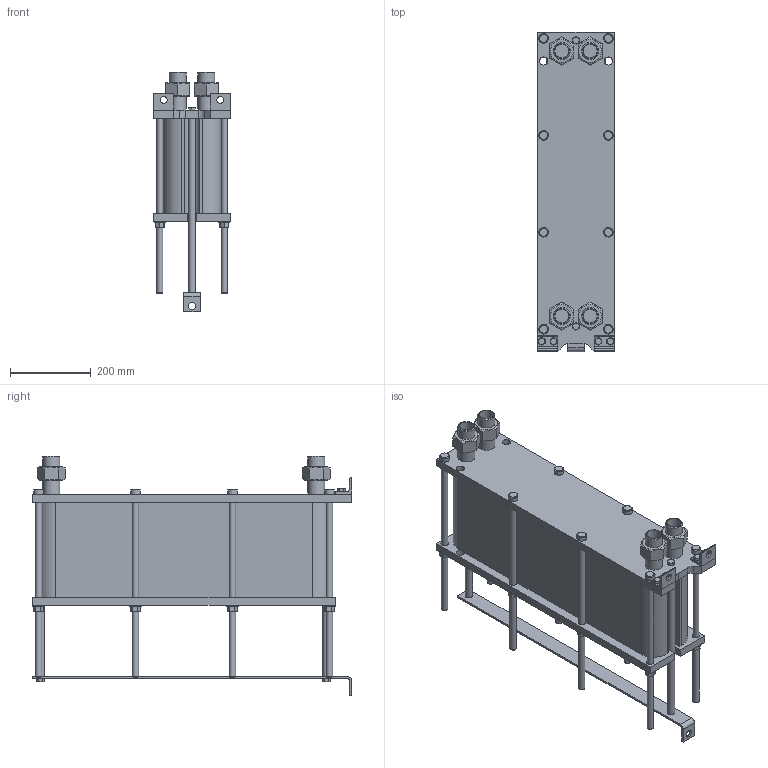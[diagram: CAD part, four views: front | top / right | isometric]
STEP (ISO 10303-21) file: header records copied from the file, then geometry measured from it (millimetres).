
FILE_DESCRIPTION(/* description */ (''),/* implementation_level */ '2;1');
FILE_NAME(/* name */ 'C:\Users\zhuro\Desktop\ENCO\TO\ЭН-008\ЭН-0,5-008-76-1.stp',/* time_stamp */ '2022-06-06T10:52:09+03:00',/* author */ ('zhuro'),/* organization */ (''),/* preprocessor_version */ 'ST-DEVELOPER v18.1',/* originating_system */ 'Autodesk Inventor 2022',/* authorisation */ '');
FILE_SCHEMA (('AUTOMOTIVE_DESIGN { 1 0 10303 214 3 1 1 }'));
Length unit declared in the file: millimetre
Products named in the file (1): ЭН-0,5-008-76-1
Bounding box: 190 x 790 x 593.8 mm (x, y, z)
Volume: 30885945.5 mm3; surface area: 1818512.9 mm2
Topology: 40 solids, 40 shells, 428 faces, 924 edges, 606 vertices
Faces by surface type: plane 273, cylinder 109, cone 40, torus 6
Full cylindrical faces by diameter (mm): 12 x6, 14 x2, 16 x20, 17 x8, 18 x19, 20 x5, 24 x8, 28 x8, 34.3 x8, 42.3 x8
Entity records: 15843 total; most frequent: CARTESIAN_POINT 5991, DIRECTION 1984, ORIENTED_EDGE 1848, EDGE_CURVE 924, AXIS2_PLACEMENT_3D 715, VERTEX_POINT 606, LINE 554, VECTOR 554
